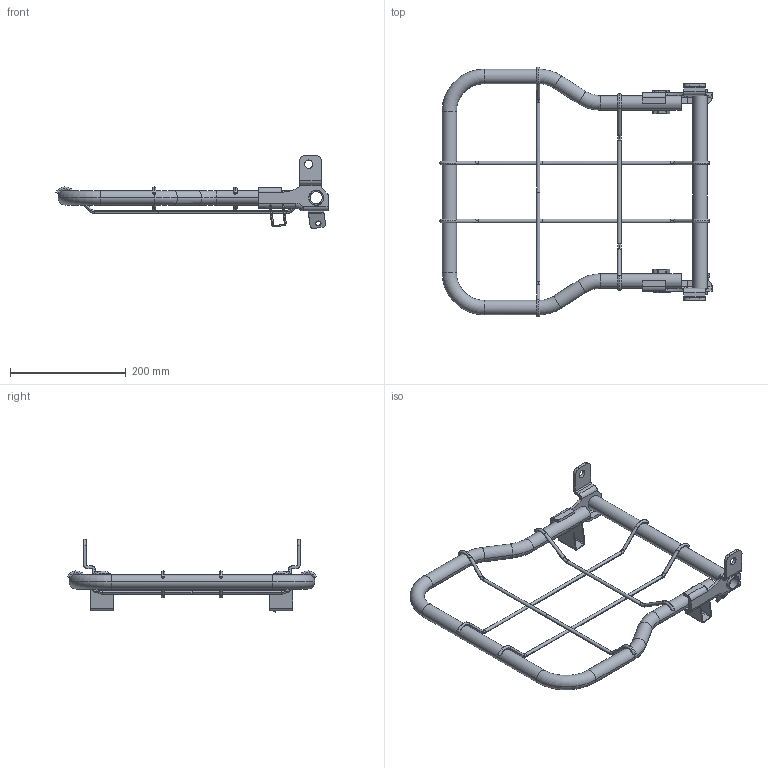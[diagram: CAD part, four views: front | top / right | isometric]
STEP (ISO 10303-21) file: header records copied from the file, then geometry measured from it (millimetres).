
FILE_DESCRIPTION(('CATIA V5 STEP Exchange'),'2;1');
FILE_NAME('C:\Users\Administrator\Desktop\J6P经典版样件数据-20241208\副司机旋转座框-红色件为新开-20241208.stp','2024-12-08T03:39:41+00:00',('none'),('none'),'CATIA Version 5 Release 20 GA (IN-10)','CATIA V5 STEP AP214','none');
FILE_SCHEMA(('AUTOMOTIVE_DESIGN { 1 0 10303 214 1 1 1 1 }'));
Length unit declared in the file: millimetre
Products named in the file (1): SHT0013299_AllCATPart
Bounding box: 469.75 x 431.39 x 126.27 mm (x, y, z)
Volume: 367181.9 mm3; surface area: 310760 mm2
Topology: 11 solids, 11 shells, 366 faces, 918 edges, 570 vertices
Faces by surface type: cylinder 164, torus 94, plane 92, bspline 12, sphere 4
Entity records: 11536 total; most frequent: CARTESIAN_POINT 3478, ORIENTED_EDGE 1828, DIRECTION 1283, EDGE_CURVE 914, AXIS2_PLACEMENT_3D 654, VERTEX_POINT 570, EDGE_LOOP 384, ADVANCED_FACE 366
